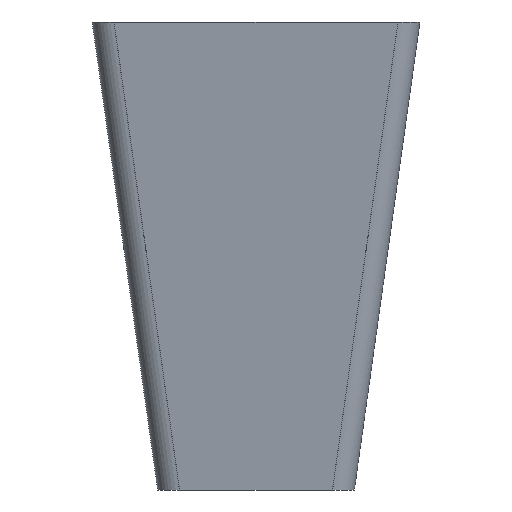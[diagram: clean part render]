
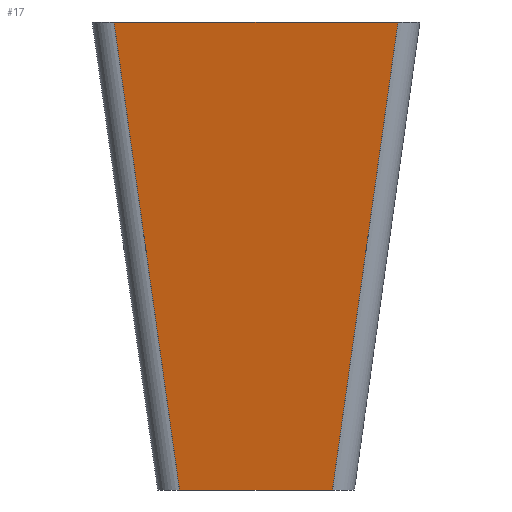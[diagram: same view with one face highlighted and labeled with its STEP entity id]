
A CAD part, left-side view. The second image highlights one B-rep face of the part: STEP entity #17.
In plain terms, the highlighted free-form (B-spline) face has degree [1, 1] with [2, 2] control points.
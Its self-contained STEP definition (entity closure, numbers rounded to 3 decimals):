
#17 = ADVANCED_FACE('',(#18),#32,.T.);
#18 = FACE_BOUND('',#19,.T.);
#19 = EDGE_LOOP('',(#20,#54,#93,#121));
#20 = ORIENTED_EDGE('',*,*,#21,.F.);
#21 = EDGE_CURVE('',#22,#24,#26,.T.);
#22 = VERTEX_POINT('',#23);
#23 = CARTESIAN_POINT('',(25.75,15.25,-12.71));
#24 = VERTEX_POINT('',#25);
#25 = CARTESIAN_POINT('',(25.75,18.75,-12.71));
#26 = SURFACE_CURVE('',#27,(#31,#42),.PCURVE_S1.);
#27 = LINE('',#28,#29);
#28 = CARTESIAN_POINT('',(25.75,17.,-12.71));
#29 = VECTOR('',#30,1.);
#30 = DIRECTION('',(0.,1.,0.));
#31 = PCURVE('',#32,#37);
#32 = B_SPLINE_SURFACE_WITH_KNOTS('',1,1,(
    (#33,#34)
    ,(#35,#36
    )),.UNSPECIFIED.,.F.,.F.,.F.,(2,2),(2,2),(-3.25,3.25),(0.,1.),
  .PIECEWISE_BEZIER_KNOTS.);
#33 = CARTESIAN_POINT('',(25.75,18.75,-12.71));
#34 = CARTESIAN_POINT('',(24.,20.25,-2.));
#35 = CARTESIAN_POINT('',(25.75,15.25,-12.71));
#36 = CARTESIAN_POINT('',(24.,13.75,-2.));
#37 = DEFINITIONAL_REPRESENTATION('',(#38),#41);
#38 = B_SPLINE_CURVE_WITH_KNOTS('',1,(#39,#40),.UNSPECIFIED.,.F.,.F.,(2,
    2),(-1.75,1.75),.PIECEWISE_BEZIER_KNOTS.);
#39 = CARTESIAN_POINT('',(3.25,0.));
#40 = CARTESIAN_POINT('',(-3.25,0.));
#41 = ( GEOMETRIC_REPRESENTATION_CONTEXT(2) 
PARAMETRIC_REPRESENTATION_CONTEXT() REPRESENTATION_CONTEXT('2D SPACE',''
  ) );
#42 = PCURVE('',#43,#48);
#43 = PLANE('',#44);
#44 = AXIS2_PLACEMENT_3D('',#45,#46,#47);
#45 = CARTESIAN_POINT('',(26.25,18.75,-12.71));
#46 = DIRECTION('',(0.,0.,1.));
#47 = DIRECTION('',(1.,0.,0.));
#48 = DEFINITIONAL_REPRESENTATION('',(#49),#53);
#49 = LINE('',#50,#51);
#50 = CARTESIAN_POINT('',(-0.5,-1.75));
#51 = VECTOR('',#52,1.);
#52 = DIRECTION('',(0.,1.));
#53 = ( GEOMETRIC_REPRESENTATION_CONTEXT(2) 
PARAMETRIC_REPRESENTATION_CONTEXT() REPRESENTATION_CONTEXT('2D SPACE',''
  ) );
#54 = ORIENTED_EDGE('',*,*,#55,.T.);
#55 = EDGE_CURVE('',#22,#56,#58,.T.);
#56 = VERTEX_POINT('',#57);
#57 = CARTESIAN_POINT('',(24.,13.75,-2.));
#58 = SURFACE_CURVE('',#59,(#62,#69),.PCURVE_S1.);
#59 = B_SPLINE_CURVE_WITH_KNOTS('',1,(#60,#61),.UNSPECIFIED.,.F.,.F.,(2,
    2),(0.,1.),.PIECEWISE_BEZIER_KNOTS.);
#60 = CARTESIAN_POINT('',(25.75,15.25,-12.71));
#61 = CARTESIAN_POINT('',(24.,13.75,-2.));
#62 = PCURVE('',#32,#63);
#63 = DEFINITIONAL_REPRESENTATION('',(#64),#68);
#64 = LINE('',#65,#66);
#65 = CARTESIAN_POINT('',(3.25,0.));
#66 = VECTOR('',#67,1.);
#67 = DIRECTION('',(0.,1.));
#68 = ( GEOMETRIC_REPRESENTATION_CONTEXT(2) 
PARAMETRIC_REPRESENTATION_CONTEXT() REPRESENTATION_CONTEXT('2D SPACE',''
  ) );
#69 = PCURVE('',#70,#87);
#70 = B_SPLINE_SURFACE_WITH_KNOTS('',7,1,(
    (#71,#72)
    ,(#73,#74)
    ,(#75,#76)
    ,(#77,#78)
    ,(#79,#80)
    ,(#81,#82)
    ,(#83,#84)
    ,(#85,#86
    )),.UNSPECIFIED.,.F.,.F.,.F.,(8,8),(2,2),(3.142,
    4.712),(0.,1.),.PIECEWISE_BEZIER_KNOTS.);
#71 = CARTESIAN_POINT('',(25.75,15.25,-12.71));
#72 = CARTESIAN_POINT('',(24.,13.75,-2.));
#73 = CARTESIAN_POINT('',(25.75,15.138,-12.71));
#74 = CARTESIAN_POINT('',(24.,13.638,-2.));
#75 = CARTESIAN_POINT('',(25.779,15.026,-12.71));
#76 = CARTESIAN_POINT('',(24.029,13.526,-2.));
#77 = CARTESIAN_POINT('',(25.838,14.923,
    -12.71));
#78 = CARTESIAN_POINT('',(24.088,13.423,-2.));
#79 = CARTESIAN_POINT('',(25.923,14.838,-12.71));
#80 = CARTESIAN_POINT('',(24.173,13.338,-2.));
#81 = CARTESIAN_POINT('',(26.026,14.779,-12.71));
#82 = CARTESIAN_POINT('',(24.276,13.279,-2.));
#83 = CARTESIAN_POINT('',(26.138,14.75,-12.71));
#84 = CARTESIAN_POINT('',(24.388,13.25,-2.));
#85 = CARTESIAN_POINT('',(26.25,14.75,-12.71));
#86 = CARTESIAN_POINT('',(24.5,13.25,-2.));
#87 = DEFINITIONAL_REPRESENTATION('',(#88),#92);
#88 = LINE('',#89,#90);
#89 = CARTESIAN_POINT('',(3.142,0.));
#90 = VECTOR('',#91,1.);
#91 = DIRECTION('',(0.,1.));
#92 = ( GEOMETRIC_REPRESENTATION_CONTEXT(2) 
PARAMETRIC_REPRESENTATION_CONTEXT() REPRESENTATION_CONTEXT('2D SPACE',''
  ) );
#93 = ORIENTED_EDGE('',*,*,#94,.T.);
#94 = EDGE_CURVE('',#56,#95,#97,.T.);
#95 = VERTEX_POINT('',#96);
#96 = CARTESIAN_POINT('',(24.,20.25,-2.));
#97 = SURFACE_CURVE('',#98,(#102,#109),.PCURVE_S1.);
#98 = LINE('',#99,#100);
#99 = CARTESIAN_POINT('',(24.,17.,-2.));
#100 = VECTOR('',#101,1.);
#101 = DIRECTION('',(0.,1.,0.));
#102 = PCURVE('',#32,#103);
#103 = DEFINITIONAL_REPRESENTATION('',(#104),#108);
#104 = LINE('',#105,#106);
#105 = CARTESIAN_POINT('',(0.,1.));
#106 = VECTOR('',#107,1.);
#107 = DIRECTION('',(-1.,0.));
#108 = ( GEOMETRIC_REPRESENTATION_CONTEXT(2) 
PARAMETRIC_REPRESENTATION_CONTEXT() REPRESENTATION_CONTEXT('2D SPACE',''
  ) );
#109 = PCURVE('',#110,#115);
#110 = PLANE('',#111);
#111 = AXIS2_PLACEMENT_3D('',#112,#113,#114);
#112 = CARTESIAN_POINT('',(24.5,13.75,-2.));
#113 = DIRECTION('',(0.,0.,1.));
#114 = DIRECTION('',(1.,0.,0.));
#115 = DEFINITIONAL_REPRESENTATION('',(#116),#120);
#116 = LINE('',#117,#118);
#117 = CARTESIAN_POINT('',(-0.5,3.25));
#118 = VECTOR('',#119,1.);
#119 = DIRECTION('',(0.,1.));
#120 = ( GEOMETRIC_REPRESENTATION_CONTEXT(2) 
PARAMETRIC_REPRESENTATION_CONTEXT() REPRESENTATION_CONTEXT('2D SPACE',''
  ) );
#121 = ORIENTED_EDGE('',*,*,#122,.F.);
#122 = EDGE_CURVE('',#24,#95,#123,.T.);
#123 = SURFACE_CURVE('',#124,(#127,#134),.PCURVE_S1.);
#124 = B_SPLINE_CURVE_WITH_KNOTS('',1,(#125,#126),.UNSPECIFIED.,.F.,.F.,
  (2,2),(0.,1.),.PIECEWISE_BEZIER_KNOTS.);
#125 = CARTESIAN_POINT('',(25.75,18.75,-12.71));
#126 = CARTESIAN_POINT('',(24.,20.25,-2.));
#127 = PCURVE('',#32,#128);
#128 = DEFINITIONAL_REPRESENTATION('',(#129),#133);
#129 = LINE('',#130,#131);
#130 = CARTESIAN_POINT('',(-3.25,0.));
#131 = VECTOR('',#132,1.);
#132 = DIRECTION('',(0.,1.));
#133 = ( GEOMETRIC_REPRESENTATION_CONTEXT(2) 
PARAMETRIC_REPRESENTATION_CONTEXT() REPRESENTATION_CONTEXT('2D SPACE',''
  ) );
#134 = PCURVE('',#135,#152);
#135 = B_SPLINE_SURFACE_WITH_KNOTS('',7,1,(
    (#136,#137)
    ,(#138,#139)
    ,(#140,#141)
    ,(#142,#143)
    ,(#144,#145)
    ,(#146,#147)
    ,(#148,#149)
    ,(#150,#151
    )),.UNSPECIFIED.,.F.,.F.,.F.,(8,8),(2,2),(1.571,
    3.142),(0.,1.),.PIECEWISE_BEZIER_KNOTS.);
#136 = CARTESIAN_POINT('',(26.25,19.25,-12.71));
#137 = CARTESIAN_POINT('',(24.5,20.75,-2.));
#138 = CARTESIAN_POINT('',(26.138,19.25,-12.71));
#139 = CARTESIAN_POINT('',(24.388,20.75,-2.));
#140 = CARTESIAN_POINT('',(26.026,19.221,-12.71));
#141 = CARTESIAN_POINT('',(24.276,20.721,-2.));
#142 = CARTESIAN_POINT('',(25.923,19.162,-12.71));
#143 = CARTESIAN_POINT('',(24.173,20.662,-2.));
#144 = CARTESIAN_POINT('',(25.838,19.077,-12.71));
#145 = CARTESIAN_POINT('',(24.088,20.577,-2.));
#146 = CARTESIAN_POINT('',(25.779,18.974,-12.71));
#147 = CARTESIAN_POINT('',(24.029,20.474,-2.));
#148 = CARTESIAN_POINT('',(25.75,18.862,-12.71));
#149 = CARTESIAN_POINT('',(24.,20.362,-2.));
#150 = CARTESIAN_POINT('',(25.75,18.75,-12.71));
#151 = CARTESIAN_POINT('',(24.,20.25,-2.));
#152 = DEFINITIONAL_REPRESENTATION('',(#153),#157);
#153 = LINE('',#154,#155);
#154 = CARTESIAN_POINT('',(3.142,0.));
#155 = VECTOR('',#156,1.);
#156 = DIRECTION('',(0.,1.));
#157 = ( GEOMETRIC_REPRESENTATION_CONTEXT(2) 
PARAMETRIC_REPRESENTATION_CONTEXT() REPRESENTATION_CONTEXT('2D SPACE',''
  ) );
